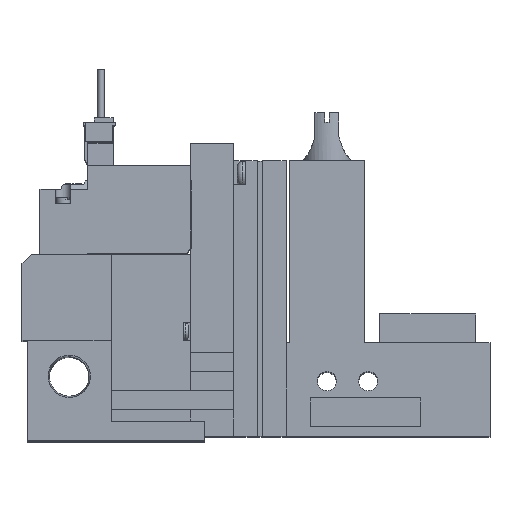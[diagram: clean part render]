
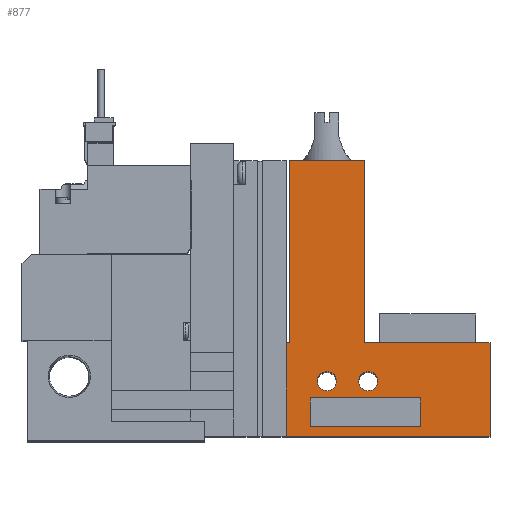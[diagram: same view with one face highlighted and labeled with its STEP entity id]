
A CAD part, top view. The second image highlights one B-rep face of the part: STEP entity #877.
In plain terms, the highlighted planar face has unit normal (0, 0, 1).
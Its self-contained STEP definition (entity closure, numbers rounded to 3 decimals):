
#877=ADVANCED_FACE('',(#1740,#1741,#1742,#1743),#1744,.T.);
#1740=FACE_BOUND('',#2876,.T.);
#1741=FACE_BOUND('',#2877,.T.);
#1742=FACE_BOUND('',#2878,.T.);
#1743=FACE_OUTER_BOUND('',#2879,.T.);
#1744=PLANE('',#2880);
#2876=EDGE_LOOP('',(#6049,#6050,#6051,#6052));
#2877=EDGE_LOOP('',(#6053));
#2878=EDGE_LOOP('',(#6054));
#2879=EDGE_LOOP('',(#6055,#6056,#6057,#6058,#6059,#6060,#6061,#6062));
#2880=AXIS2_PLACEMENT_3D('',#6063,#6064,#6065);
#6049=ORIENTED_EDGE('',*,*,#7965,.T.);
#6050=ORIENTED_EDGE('',*,*,#7941,.T.);
#6051=ORIENTED_EDGE('',*,*,#7938,.T.);
#6052=ORIENTED_EDGE('',*,*,#7974,.T.);
#6053=ORIENTED_EDGE('',*,*,#7831,.T.);
#6054=ORIENTED_EDGE('',*,*,#7829,.T.);
#6055=ORIENTED_EDGE('',*,*,#7975,.F.);
#6056=ORIENTED_EDGE('',*,*,#7909,.T.);
#6057=ORIENTED_EDGE('',*,*,#7739,.T.);
#6058=ORIENTED_EDGE('',*,*,#7971,.T.);
#6059=ORIENTED_EDGE('',*,*,#7961,.T.);
#6060=ORIENTED_EDGE('',*,*,#7976,.T.);
#6061=ORIENTED_EDGE('',*,*,#7946,.T.);
#6062=ORIENTED_EDGE('',*,*,#7870,.T.);
#6063=CARTESIAN_POINT('',(0.0,0.0,10.0));
#6064=DIRECTION('',(0.0,0.0,1.0));
#6065=DIRECTION('',(1.0,0.0,0.0));
#7739=EDGE_CURVE('',#9367,#9365,#9368,.T.);
#7829=EDGE_CURVE('',#9523,#9523,#9524,.T.);
#7831=EDGE_CURVE('',#9527,#9527,#9528,.T.);
#7870=EDGE_CURVE('',#9599,#9597,#9600,.T.);
#7909=EDGE_CURVE('',#9655,#9367,#9656,.T.);
#7938=EDGE_CURVE('',#9690,#9692,#9694,.T.);
#7941=EDGE_CURVE('',#9697,#9690,#9699,.T.);
#7946=EDGE_CURVE('',#9705,#9599,#9706,.T.);
#7961=EDGE_CURVE('',#9726,#9724,#9727,.T.);
#7965=EDGE_CURVE('',#9730,#9697,#9732,.T.);
#7971=EDGE_CURVE('',#9365,#9726,#9738,.T.);
#7974=EDGE_CURVE('',#9692,#9730,#9742,.T.);
#7975=EDGE_CURVE('',#9655,#9597,#9743,.T.);
#7976=EDGE_CURVE('',#9724,#9705,#9744,.T.);
#9365=VERTEX_POINT('',#12022);
#9367=VERTEX_POINT('',#12025);
#9368=LINE('',#12026,#12027);
#9523=VERTEX_POINT('',#12293);
#9524=CIRCLE('',#12294,2.0);
#9527=VERTEX_POINT('',#12297);
#9528=CIRCLE('',#12298,2.0);
#9597=VERTEX_POINT('',#12397);
#9599=VERTEX_POINT('',#12400);
#9600=LINE('',#12401,#12402);
#9655=VERTEX_POINT('',#12493);
#9656=LINE('',#12494,#12495);
#9690=VERTEX_POINT('',#12553);
#9692=VERTEX_POINT('',#12556);
#9694=LINE('',#12559,#12560);
#9697=VERTEX_POINT('',#12563);
#9699=LINE('',#12566,#12567);
#9705=VERTEX_POINT('',#12577);
#9706=LINE('',#12578,#12579);
#9724=VERTEX_POINT('',#12609);
#9726=VERTEX_POINT('',#12612);
#9727=LINE('',#12613,#12614);
#9730=VERTEX_POINT('',#12619);
#9732=LINE('',#12622,#12623);
#9738=LINE('',#12634,#12635);
#9742=LINE('',#12640,#12641);
#9743=LINE('',#12642,#12643);
#9744=LINE('',#12644,#12645);
#12022=CARTESIAN_POINT('',(97.6,19.5,10.0));
#12025=CARTESIAN_POINT('',(97.6,0.0,10.0));
#12026=CARTESIAN_POINT('',(97.6,0.0,10.0));
#12027=VECTOR('',#14331,1.0);
#12293=CARTESIAN_POINT('',(74.2,11.5,10.0));
#12294=AXIS2_PLACEMENT_3D('',#14428,#14429,#14430);
#12297=CARTESIAN_POINT('',(65.6,11.5,10.0));
#12298=AXIS2_PLACEMENT_3D('',#14434,#14435,#14436);
#12397=CARTESIAN_POINT('',(55.1,19.5,10.0));
#12400=CARTESIAN_POINT('',(55.75,19.5,10.0));
#12401=CARTESIAN_POINT('',(55.75,19.5,10.0));
#12402=VECTOR('',#14489,1.0);
#12493=CARTESIAN_POINT('',(55.1,0.0,10.0));
#12494=CARTESIAN_POINT('',(18.6,0.0,10.0));
#12495=VECTOR('',#14532,1.0);
#12553=CARTESIAN_POINT('',(83.1,8.0,10.0));
#12556=CARTESIAN_POINT('',(83.1,2.0,10.0));
#12559=CARTESIAN_POINT('',(83.1,0.0,10.0));
#12560=VECTOR('',#14565,1.0);
#12563=CARTESIAN_POINT('',(60.1,8.0,10.0));
#12566=CARTESIAN_POINT('',(0.0,8.0,10.0));
#12567=VECTOR('',#14570,1.0);
#12577=CARTESIAN_POINT('',(55.75,57.5,10.0));
#12578=CARTESIAN_POINT('',(55.75,57.5,10.0));
#12579=VECTOR('',#14575,1.0);
#12609=CARTESIAN_POINT('',(71.45,57.5,10.0));
#12612=CARTESIAN_POINT('',(71.45,19.5,10.0));
#12613=CARTESIAN_POINT('',(71.45,19.5,10.0));
#12614=VECTOR('',#14592,1.0);
#12619=CARTESIAN_POINT('',(60.1,2.0,10.0));
#12622=CARTESIAN_POINT('',(60.1,0.0,10.0));
#12623=VECTOR('',#14596,1.0);
#12634=CARTESIAN_POINT('',(97.6,19.5,10.0));
#12635=VECTOR('',#14602,1.0);
#12640=CARTESIAN_POINT('',(0.0,2.0,10.0));
#12641=VECTOR('',#14607,1.0);
#12642=CARTESIAN_POINT('',(55.1,0.0,10.0));
#12643=VECTOR('',#14608,1.0);
#12644=CARTESIAN_POINT('',(71.45,57.5,10.0));
#12645=VECTOR('',#14609,1.0);
#14331=DIRECTION('',(0.0,1.0,0.0));
#14428=CARTESIAN_POINT('',(72.2,11.5,10.0));
#14429=DIRECTION('',(0.0,0.0,-1.0));
#14430=DIRECTION('',(1.0,0.0,0.0));
#14434=CARTESIAN_POINT('',(63.6,11.5,10.0));
#14435=DIRECTION('',(0.0,0.0,-1.0));
#14436=DIRECTION('',(1.0,0.0,0.0));
#14489=DIRECTION('',(-1.0,0.0,0.0));
#14532=DIRECTION('',(1.0,0.0,0.0));
#14565=DIRECTION('',(0.0,-1.0,0.0));
#14570=DIRECTION('',(1.0,0.0,0.0));
#14575=DIRECTION('',(0.0,-1.0,0.0));
#14592=DIRECTION('',(0.0,1.0,0.0));
#14596=DIRECTION('',(0.0,1.0,0.0));
#14602=DIRECTION('',(-1.0,0.0,0.0));
#14607=DIRECTION('',(-1.0,0.0,0.0));
#14608=DIRECTION('',(0.0,1.0,0.0));
#14609=DIRECTION('',(-1.0,0.0,0.0));
